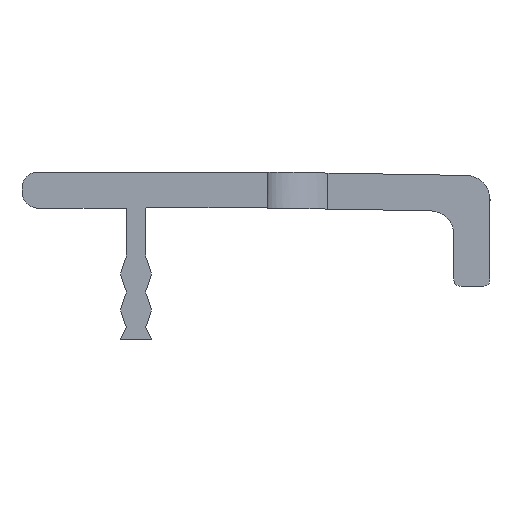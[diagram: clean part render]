
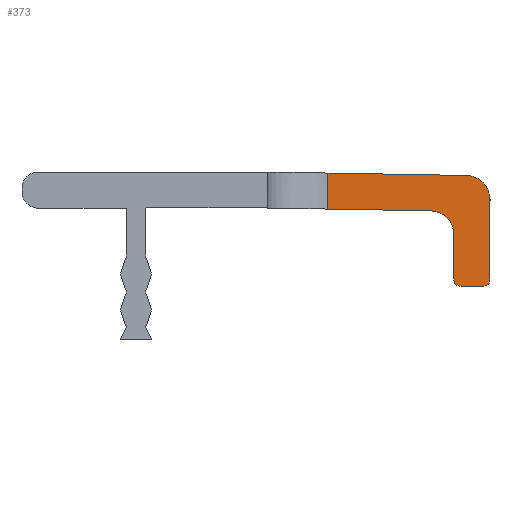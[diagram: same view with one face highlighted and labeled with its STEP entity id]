
A CAD part, left-side view. The second image highlights one B-rep face of the part: STEP entity #373.
In plain terms, the highlighted planar face has unit normal (-1, 0, 0).
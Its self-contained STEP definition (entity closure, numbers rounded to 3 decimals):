
#259 = EDGE_CURVE( '', #377, #665, #730, .T. );
#277 = VERTEX_POINT( '', #750 );
#295 = VERTEX_POINT( '', #769 );
#349 = VERTEX_POINT( '', #829 );
#371 = VERTEX_POINT( '', #854 );
#373 = ADVANCED_FACE( '', ( #856 ), #857, .F. );
#377 = VERTEX_POINT( '', #861 );
#381 = EDGE_CURVE( '', #665, #479, #866, .T. );
#391 = EDGE_CURVE( '', #349, #575, #876, .T. );
#401 = EDGE_CURVE( '', #277, #547, #886, .T. );
#407 = VERTEX_POINT( '', #892 );
#423 = EDGE_CURVE( '', #295, #349, #908, .T. );
#479 = VERTEX_POINT( '', #969 );
#491 = EDGE_CURVE( '', #575, #377, #981, .T. );
#547 = VERTEX_POINT( '', #1044 );
#575 = VERTEX_POINT( '', #1076 );
#601 = EDGE_CURVE( '', #277, #295, #1106, .T. );
#615 = EDGE_CURVE( '', #407, #547, #1121, .T. );
#647 = EDGE_CURVE( '', #371, #407, #1155, .T. );
#665 = VERTEX_POINT( '', #1174 );
#695 = EDGE_CURVE( '', #479, #371, #1204, .T. );
#730 = LINE( '', #1235, #1236 );
#750 = CARTESIAN_POINT( '', ( -347.5, -16., 2.913 ) );
#769 = CARTESIAN_POINT( '', ( -347.5, -27.535, 2.711 ) );
#829 = CARTESIAN_POINT( '', ( -347.5, -29.5, 0.712 ) );
#854 = CARTESIAN_POINT( '', ( -347.5, -26.5, -2.236 ) );
#856 = FACE_OUTER_BOUND( '', #1404, .T. );
#857 = PLANE( '', #1405 );
#861 = CARTESIAN_POINT( '', ( -347.5, -29., -6.5 ) );
#866 = CIRCLE( '', #1415, 0.5 );
#876 = LINE( '', #1431, #1432 );
#886 = LINE( '', #1447, #1448 );
#892 = CARTESIAN_POINT( '', ( -347.5, -24.535, -0.237 ) );
#908 = CIRCLE( '', #1486, 2. );
#969 = CARTESIAN_POINT( '', ( -347.5, -26.5, -6. ) );
#981 = CIRCLE( '', #1590, 0.5 );
#1044 = CARTESIAN_POINT( '', ( -347.5, -16., -0.088 ) );
#1076 = CARTESIAN_POINT( '', ( -347.5, -29.5, -6. ) );
#1106 = LINE( '', #1756, #1757 );
#1121 = LINE( '', #1777, #1778 );
#1155 = CIRCLE( '', #1825, 2. );
#1174 = CARTESIAN_POINT( '', ( -347.5, -27., -6.5 ) );
#1204 = LINE( '', #1901, #1902 );
#1235 = CARTESIAN_POINT( '', ( -347.5, -29.25, -6.5 ) );
#1236 = VECTOR( '', #1928, 1. );
#1404 = EDGE_LOOP( '', ( #2086, #2087, #2088, #2089, #2090, #2091, #2092, #2093, #2094, #2095 ) );
#1405 = AXIS2_PLACEMENT_3D( '', #2096, #2097, #2098 );
#1415 = AXIS2_PLACEMENT_3D( '', #2107, #2108, #2109 );
#1431 = CARTESIAN_POINT( '', ( -347.5, -29.5, 5.356 ) );
#1432 = VECTOR( '', #2115, 1. );
#1447 = CARTESIAN_POINT( '', ( -347.5, -16., 10. ) );
#1448 = VECTOR( '', #2118, 1. );
#1486 = AXIS2_PLACEMENT_3D( '', #2129, #2130, #2131 );
#1590 = AXIS2_PLACEMENT_3D( '', #2192, #2193, #2194 );
#1756 = CARTESIAN_POINT( '', ( -347.5, -20.186, 2.84 ) );
#1757 = VECTOR( '', #2368, 1. );
#1777 = CARTESIAN_POINT( '', ( -347.5, -26.927, -0.278 ) );
#1778 = VECTOR( '', #2379, 1. );
#1825 = AXIS2_PLACEMENT_3D( '', #2407, #2408, #2409 );
#1901 = CARTESIAN_POINT( '', ( -347.5, -26.5, 2. ) );
#1902 = VECTOR( '', #2441, 1. );
#1928 = DIRECTION( '', ( 0., 1., 0. ) );
#2086 = ORIENTED_EDGE( '', *, *, #601, .F. );
#2087 = ORIENTED_EDGE( '', *, *, #401, .T. );
#2088 = ORIENTED_EDGE( '', *, *, #615, .F. );
#2089 = ORIENTED_EDGE( '', *, *, #647, .F. );
#2090 = ORIENTED_EDGE( '', *, *, #695, .F. );
#2091 = ORIENTED_EDGE( '', *, *, #381, .F. );
#2092 = ORIENTED_EDGE( '', *, *, #259, .F. );
#2093 = ORIENTED_EDGE( '', *, *, #491, .F. );
#2094 = ORIENTED_EDGE( '', *, *, #391, .F. );
#2095 = ORIENTED_EDGE( '', *, *, #423, .F. );
#2096 = CARTESIAN_POINT( '', ( -347.5, -29.5, 10. ) );
#2097 = DIRECTION( '', ( 1., 0., 0. ) );
#2098 = DIRECTION( '', ( 0., -1., 0. ) );
#2107 = CARTESIAN_POINT( '', ( -347.5, -27., -6. ) );
#2108 = DIRECTION( '', ( 1., 0., 0. ) );
#2109 = DIRECTION( '', ( 0., 0., -1. ) );
#2115 = DIRECTION( '', ( 0., 0., -1. ) );
#2118 = DIRECTION( '', ( 0., 0., -1. ) );
#2129 = CARTESIAN_POINT( '', ( -347.5, -27.5, 0.712 ) );
#2130 = DIRECTION( '', ( 1., 0., 0. ) );
#2131 = DIRECTION( '', ( 0., -0.017, 1. ) );
#2192 = CARTESIAN_POINT( '', ( -347.5, -29., -6. ) );
#2193 = DIRECTION( '', ( 1., 0., 0. ) );
#2194 = DIRECTION( '', ( 0., -1., 0. ) );
#2368 = DIRECTION( '', ( 0., -1., -0.017 ) );
#2379 = DIRECTION( '', ( 0., 1., 0.017 ) );
#2407 = CARTESIAN_POINT( '', ( -347.5, -24.5, -2.236 ) );
#2408 = DIRECTION( '', ( -1., 0., 0. ) );
#2409 = DIRECTION( '', ( 0., -1., 0. ) );
#2441 = DIRECTION( '', ( 0., 0., 1. ) );
